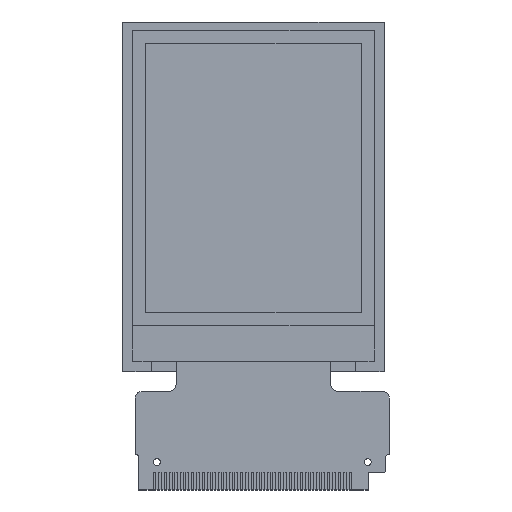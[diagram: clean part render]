
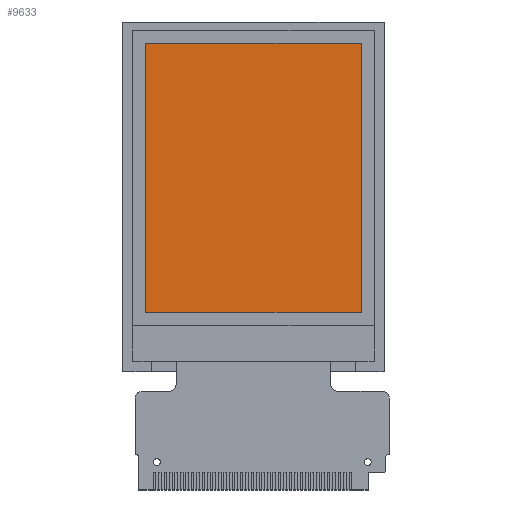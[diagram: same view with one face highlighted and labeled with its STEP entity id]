
A CAD part, top view. The second image highlights one B-rep face of the part: STEP entity #9633.
In plain terms, the highlighted planar face has unit normal (0, 0, 1).
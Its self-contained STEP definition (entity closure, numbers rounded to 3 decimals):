
#426 = EDGE_LOOP ( 'NONE', ( #12936, #2654, #6215, #782 ) ) ;
#769 = PLANE ( 'NONE',  #14107 ) ;
#782 = ORIENTED_EDGE ( 'NONE', *, *, #14854, .F. ) ;
#1068 = LINE ( 'NONE', #3450, #4993 ) ;
#1976 = FACE_OUTER_BOUND ( 'NONE', #426, .T. ) ;
#2654 = ORIENTED_EDGE ( 'NONE', *, *, #12424, .F. ) ;
#3081 = EDGE_CURVE ( 'NONE', #12525, #11178, #8257, .T. ) ;
#3450 = CARTESIAN_POINT ( 'NONE',  ( 0., -3.1, 2.34 ) ) ;
#3882 = LINE ( 'NONE', #9407, #7383 ) ;
#4092 = VERTEX_POINT ( 'NONE', #7450 ) ;
#4271 = CARTESIAN_POINT ( 'NONE',  ( 0., -42.7, 2.34 ) ) ;
#4807 = DIRECTION ( 'NONE',  ( 1., 0., 0. ) ) ;
#4968 = CARTESIAN_POINT ( 'NONE',  ( 35.04, 0., 2.34 ) ) ;
#4993 = VECTOR ( 'NONE', #4807, 1000. ) ;
#5176 = CARTESIAN_POINT ( 'NONE',  ( 0., 0., 2.34 ) ) ;
#5472 = DIRECTION ( 'NONE',  ( -1., 0., 0. ) ) ;
#6053 = DIRECTION ( 'NONE',  ( 0., 1., 0. ) ) ;
#6181 = VERTEX_POINT ( 'NONE', #13520 ) ;
#6215 = ORIENTED_EDGE ( 'NONE', *, *, #3081, .F. ) ;
#6677 = VECTOR ( 'NONE', #5472, 1000. ) ;
#7383 = VECTOR ( 'NONE', #6053, 1000. ) ;
#7450 = CARTESIAN_POINT ( 'NONE',  ( 3.36, -42.7, 2.34 ) ) ;
#7506 = DIRECTION ( 'NONE',  ( 1., 0., 0. ) ) ;
#7647 = EDGE_CURVE ( 'NONE', #4092, #6181, #3882, .T. ) ;
#7786 = CARTESIAN_POINT ( 'NONE',  ( 35.04, -42.7, 2.34 ) ) ;
#7980 = VECTOR ( 'NONE', #10551, 1000. ) ;
#8257 = LINE ( 'NONE', #4968, #7980 ) ;
#9407 = CARTESIAN_POINT ( 'NONE',  ( 3.36, 0., 2.34 ) ) ;
#9633 = ADVANCED_FACE ( 'NONE', ( #1976 ), #769, .T. ) ;
#10551 = DIRECTION ( 'NONE',  ( 0., -1., 0. ) ) ;
#11178 = VERTEX_POINT ( 'NONE', #7786 ) ;
#12424 = EDGE_CURVE ( 'NONE', #11178, #4092, #13248, .T. ) ;
#12525 = VERTEX_POINT ( 'NONE', #13917 ) ;
#12936 = ORIENTED_EDGE ( 'NONE', *, *, #7647, .F. ) ;
#13248 = LINE ( 'NONE', #4271, #6677 ) ;
#13520 = CARTESIAN_POINT ( 'NONE',  ( 3.36, -3.1, 2.34 ) ) ;
#13917 = CARTESIAN_POINT ( 'NONE',  ( 35.04, -3.1, 2.34 ) ) ;
#14107 = AXIS2_PLACEMENT_3D ( 'NONE', #5176, #14226, #7506 ) ;
#14226 = DIRECTION ( 'NONE',  ( 0., 0., 1. ) ) ;
#14854 = EDGE_CURVE ( 'NONE', #6181, #12525, #1068, .T. ) ;
